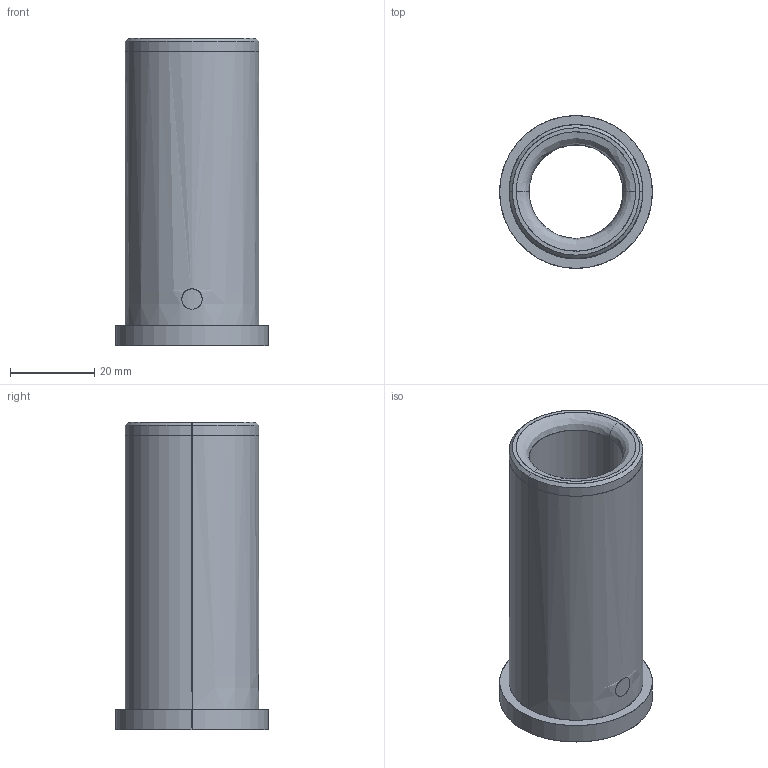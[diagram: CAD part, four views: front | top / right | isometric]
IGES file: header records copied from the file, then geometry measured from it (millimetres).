
Start section: SolidWorks IGES file using analytic representation for surfaces
Global section: file name: D:\Current\W2\S875-23G.igs; native system: SolidWorks 2017; preprocessor: SolidWorks 2017; author: Ravi Kalvai; date: 240723.152513; units: inch
Bounding box: 36.25 x 36.25 x 73.03 mm (x, y, z)
Surface area: 13547.4 mm2 (no closed solid volume)
Topology: 0 solids, 0 shells, 21 faces, 594 edges, 594 vertices
Faces by surface type: revolution 13, bspline 8
